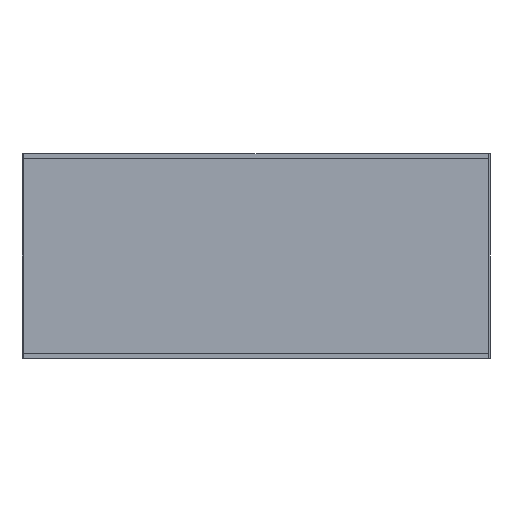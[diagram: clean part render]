
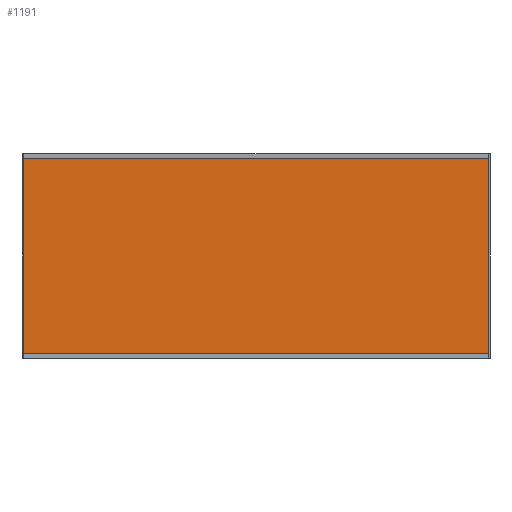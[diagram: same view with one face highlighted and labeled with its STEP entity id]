
A CAD part, front view. The second image highlights one B-rep face of the part: STEP entity #1191.
In plain terms, the highlighted planar face has unit normal (0, -1, 0).
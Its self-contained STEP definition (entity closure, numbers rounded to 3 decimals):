
#66=PLANE('',#1293);
#129=FACE_OUTER_BOUND('',#199,.T.);
#199=EDGE_LOOP('',(#1006,#1007,#1008,#1009));
#319=LINE('',#1857,#457);
#322=LINE('',#1863,#460);
#323=LINE('',#1865,#461);
#324=LINE('',#1866,#462);
#457=VECTOR('',#1539,10.);
#460=VECTOR('',#1544,10.);
#461=VECTOR('',#1545,10.);
#462=VECTOR('',#1546,10.);
#589=VERTEX_POINT('',#1854);
#590=VERTEX_POINT('',#1856);
#592=VERTEX_POINT('',#1862);
#593=VERTEX_POINT('',#1864);
#731=EDGE_CURVE('',#589,#590,#319,.T.);
#734=EDGE_CURVE('',#592,#589,#322,.T.);
#735=EDGE_CURVE('',#593,#592,#323,.T.);
#736=EDGE_CURVE('',#590,#593,#324,.T.);
#1006=ORIENTED_EDGE('',*,*,#734,.F.);
#1007=ORIENTED_EDGE('',*,*,#735,.F.);
#1008=ORIENTED_EDGE('',*,*,#736,.F.);
#1009=ORIENTED_EDGE('',*,*,#731,.F.);
#1191=ADVANCED_FACE('',(#129),#66,.T.);
#1293=AXIS2_PLACEMENT_3D('',#1861,#1542,#1543);
#1539=DIRECTION('',(0.,0.,1.));
#1542=DIRECTION('center_axis',(0.,-1.,0.));
#1543=DIRECTION('ref_axis',(0.,0.,-1.));
#1544=DIRECTION('',(-1.,0.,0.));
#1545=DIRECTION('',(0.,0.,-1.));
#1546=DIRECTION('',(1.,0.,0.));
#1854=CARTESIAN_POINT('',(-798.,-30.75,16.));
#1856=CARTESIAN_POINT('',(-798.,-30.75,683.));
#1857=CARTESIAN_POINT('',(-798.,-30.75,683.));
#1861=CARTESIAN_POINT('Origin',(0.,-30.75,683.));
#1862=CARTESIAN_POINT('',(798.,-30.75,16.));
#1863=CARTESIAN_POINT('',(0.,-30.75,16.));
#1864=CARTESIAN_POINT('',(798.,-30.75,683.));
#1865=CARTESIAN_POINT('',(798.,-30.75,683.));
#1866=CARTESIAN_POINT('',(0.,-30.75,683.));
